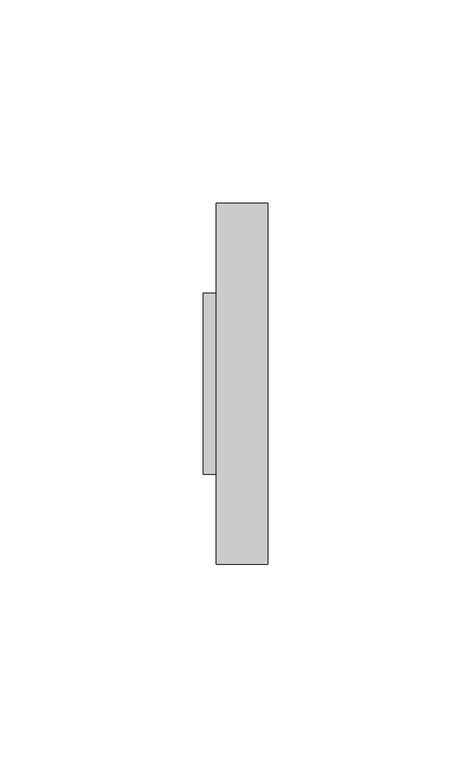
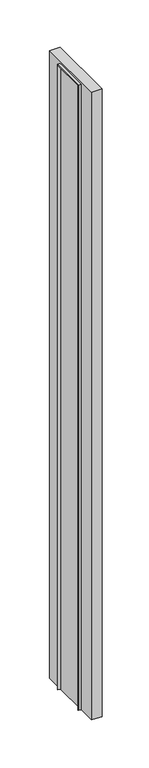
"""IFC4 building model written with IfcOpenShell, lengths in millimetres: furniture geometry."""

from ifc_helpers import new_model, si_unit, frame, origin, place, context, project, spatial, polyline, outline, extrude, source, transform, mapped, element, save


def furniture_c9bda4e8(model_context):
    return source(origin(), model_context, "Body", "SweptSolid", [
        extrude(outline(polyline([(-28.0212056, 1774.825), (16.4287944, 1774.825), (16.4287944, 965.2), (15.6350444, 965.2), (15.6350444, 1774.03125), (-27.2274556, 1774.03125), (-27.2274556, 965.2), (-28.0212056, 965.2), (-28.0212056, 1774.825)])), frame((-8.5456018, 0.0, 0.0), z_axis=(1.0, 0.0, 0.0), x_axis=(0.0, 1.0, 0.0)), (0.0, 0.0, 1.0), 3.175),
        extrude(outline(polyline([(7.3293982, 38.6537944), (7.3293982, -50.2462056), (-5.3706018, -50.2462056), (-5.3706018, 38.6537944), (7.3293982, 38.6537944)])), frame((0.0, 0.0, 965.2), z_axis=(0.0, 0.0, 1.0), x_axis=(1.0, 0.0, 0.0)), (0.0, 0.0, 1.0), 812.8),
    ])


if __name__ == "__main__":
    model = new_model("IFC4")
    model_context = context("Model", 3, world=origin())
    ifc_project = project(units=[si_unit("LENGTHUNIT", "METRE", prefix="MILLI")], contexts=[model_context])
    site = spatial("IfcSite", under=ifc_project)
    building = spatial("IfcBuilding", under=site)
    placement = place(None, origin())
    furniture_shape = furniture_c9bda4e8(model_context)
    element("IfcFurniture", 1, ObjectType="HermanMiller_Ethospace_E1251_FinishedEndChangeOfHeight : Std Ptd 32\"H", at=placement, inside=building, context=model_context, shape_type="MappedRepresentation", body=[
        mapped(furniture_shape, transform((0.0, 0.0, 0.0), x_axis=(1.0, 0.0, 0.0), y_axis=(0.0, 1.0, 0.0), z_axis=(0.0, 0.0, 1.0))),
    ])
    save(model, "model.ifc")
